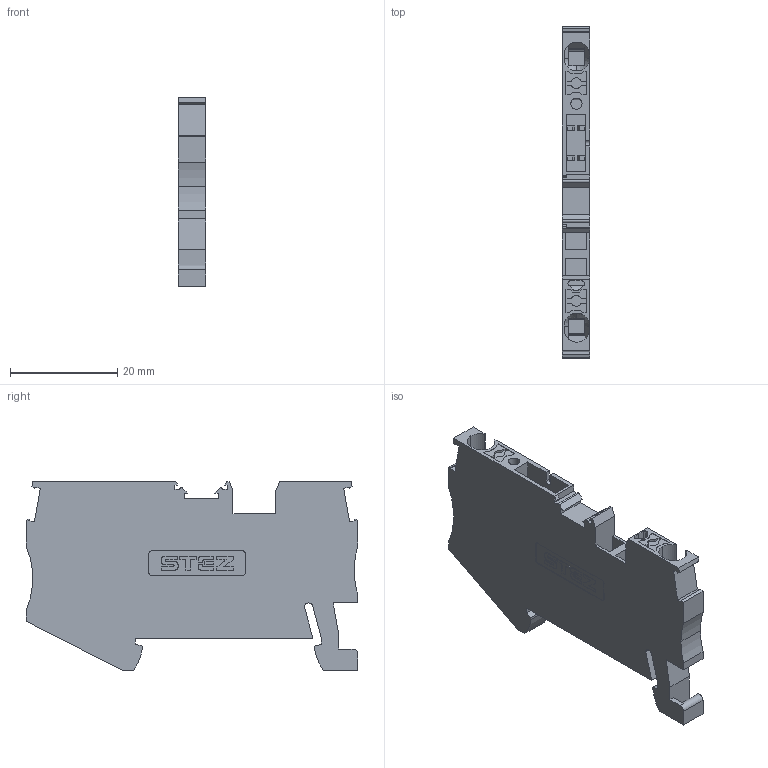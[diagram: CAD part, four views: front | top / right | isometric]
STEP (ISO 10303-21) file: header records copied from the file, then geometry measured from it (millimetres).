
FILE_DESCRIPTION(('TFLEX Exchange Step'),'2;1');
FILE_NAME('14200001_КНБ_2,5-2-ВСТ-С.stp', '2025-06-24T11:10:11+03:00',('MVarava'),('Unknown organisation'),'TFLEX Exchange 2023.0','T-FLEX CAD','Unknown authorisation');
FILE_SCHEMA( ('AUTOMOTIVE_DESIGN { 1 0 10303 214 1 1 1 1 }') );
Length unit declared in the file: millimetre
Products named in the file (1): Nodes
Bounding box: 5.15 x 61.9 x 35.25 mm (x, y, z)
Volume: 7744.4 mm3; surface area: 5954.3 mm2
Topology: 1 solids, 1 shells, 454 faces, 1311 edges, 874 vertices
Faces by surface type: plane 238, cylinder 204, extrusion 4, torus 4, cone 4
Full cylindrical faces by diameter (mm): 2.1 x1
Entity records: 15955 total; most frequent: CARTESIAN_POINT 3927, ORIENTED_EDGE 2622, DIRECTION 2408, EDGE_CURVE 1311, VERTEX_POINT 874, AXIS2_PLACEMENT_3D 807, VECTOR 794, LINE 790
